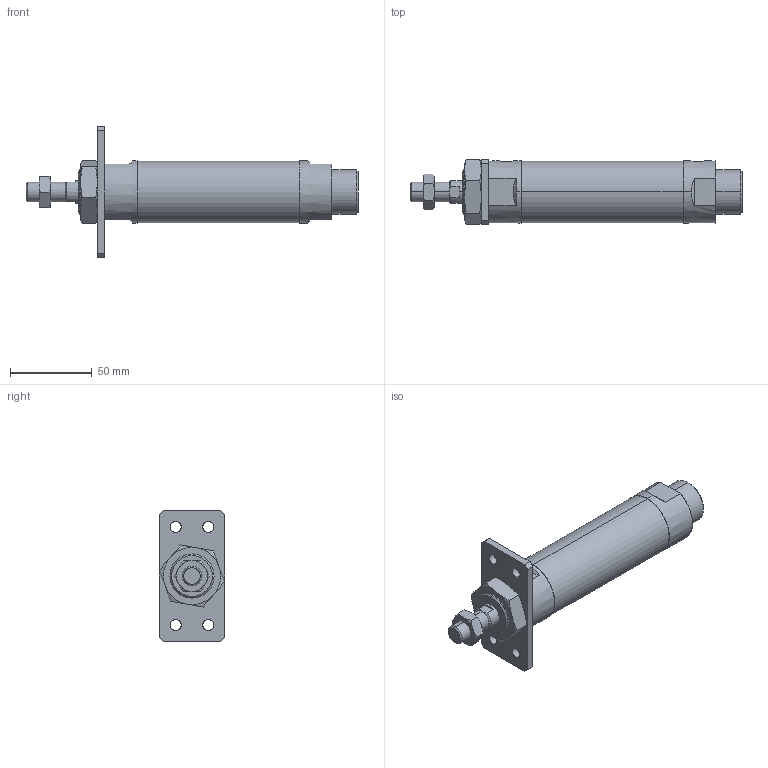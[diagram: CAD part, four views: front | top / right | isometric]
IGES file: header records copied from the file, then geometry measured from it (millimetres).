
Start section: SolidWorks IGES file using analytic representation for surfaces
Global section: file name: C:\Users\Toshiba\Desktop\J#2-32-50-A.IGS; native system: SolidWorks 2014; preprocessor: SolidWorks 2014; author: Toshiba; date: 160308.153154; units: millimetre
Bounding box: 203 x 40 x 80 mm (x, y, z)
Surface area: 34687.6 mm2 (no closed solid volume)
Topology: 0 solids, 0 shells, 114 faces, 2060 edges, 2056 vertices
Faces by surface type: bspline 67, revolution 47
